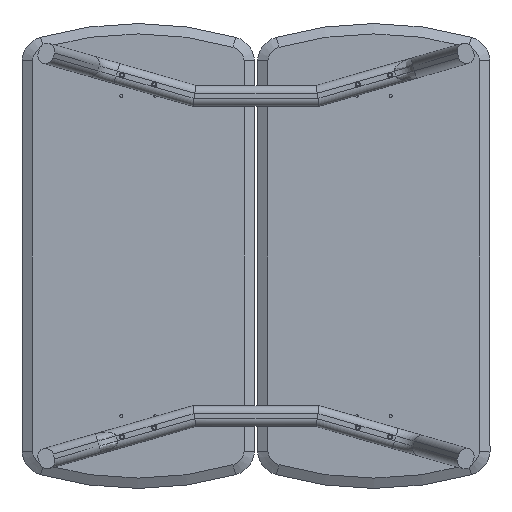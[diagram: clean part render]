
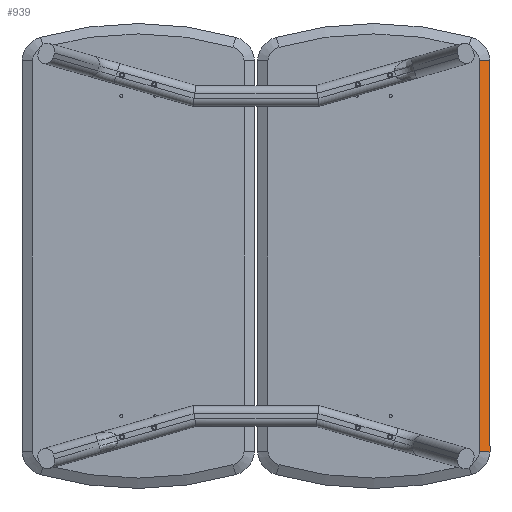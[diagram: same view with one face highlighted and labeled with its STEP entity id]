
A CAD part, front view. The second image highlights one B-rep face of the part: STEP entity #939.
In plain terms, the highlighted planar face has unit normal (0.5, -0.866, 0) as drawn and (0, -0.866, -0.5) by its records, which use the part's own axes.
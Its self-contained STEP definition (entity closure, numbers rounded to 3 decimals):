
#8 = CARTESIAN_POINT ( 'NONE',  ( -378.879, -7.303, -218.332 ) ) ;
#307 = CARTESIAN_POINT ( 'NONE',  ( -379.133, -3.453, -225. ) ) ;
#479 = CARTESIAN_POINT ( 'NONE',  ( 378.277, -15., -205. ) ) ;
#488 = CARTESIAN_POINT ( 'NONE',  ( 378.277, -15., -205. ) ) ;
#744 = LINE ( 'NONE', #5285, #3273 ) ;
#785 = B_SPLINE_CURVE_WITH_KNOTS ( 'NONE', 3,
 ( #479, #5383, #2289, #5420 ),
 .UNSPECIFIED., .F., .F.,
 ( 4, 4 ),
 ( 0., 0.023 ),
 .UNSPECIFIED. ) ;
#882 = VECTOR ( 'NONE', #2936, 1000. ) ;
#939 = ADVANCED_FACE ( 'NONE', ( #1992 ), #2179, .T. ) ;
#975 = VERTEX_POINT ( 'NONE', #4490 ) ;
#1161 = AXIS2_PLACEMENT_3D ( 'NONE', #5762, #2198, #3134 ) ;
#1225 = ORIENTED_EDGE ( 'NONE', *, *, #1816, .T. ) ;
#1573 = CARTESIAN_POINT ( 'NONE',  ( -378.603, -11.152, -211.665 ) ) ;
#1630 = LINE ( 'NONE', #307, #882 ) ;
#1657 = EDGE_CURVE ( 'NONE', #2895, #1866, #744, .T. ) ;
#1804 = EDGE_CURVE ( 'NONE', #2682, #975, #1630, .T. ) ;
#1816 = EDGE_CURVE ( 'NONE', #2895, #975, #5686, .T. ) ;
#1866 = VERTEX_POINT ( 'NONE', #488 ) ;
#1992 = FACE_OUTER_BOUND ( 'NONE', #2219, .T. ) ;
#2155 = ORIENTED_EDGE ( 'NONE', *, *, #1657, .F. ) ;
#2179 = PLANE ( 'NONE',  #1161 ) ;
#2198 = DIRECTION ( 'NONE',  ( 0., -0.866, -0.5 ) ) ;
#2219 = EDGE_LOOP ( 'NONE', ( #1225, #3768, #5392, #2155 ) ) ;
#2289 = CARTESIAN_POINT ( 'NONE',  ( 378.879, -7.303, -218.332 ) ) ;
#2682 = VERTEX_POINT ( 'NONE', #4622 ) ;
#2895 = VERTEX_POINT ( 'NONE', #3480 ) ;
#2936 = DIRECTION ( 'NONE',  ( -1., 0., 0. ) ) ;
#3134 = DIRECTION ( 'NONE',  ( 1., 0., 0. ) ) ;
#3230 = CARTESIAN_POINT ( 'NONE',  ( -379.133, -3.453, -225. ) ) ;
#3273 = VECTOR ( 'NONE', #3984, 1000. ) ;
#3480 = CARTESIAN_POINT ( 'NONE',  ( -378.277, -15., -205. ) ) ;
#3768 = ORIENTED_EDGE ( 'NONE', *, *, #1804, .F. ) ;
#3984 = DIRECTION ( 'NONE',  ( 1., 0., 0. ) ) ;
#4490 = CARTESIAN_POINT ( 'NONE',  ( -379.133, -3.453, -225. ) ) ;
#4622 = CARTESIAN_POINT ( 'NONE',  ( 379.133, -3.453, -225. ) ) ;
#5052 = CARTESIAN_POINT ( 'NONE',  ( -378.277, -15., -205. ) ) ;
#5285 = CARTESIAN_POINT ( 'NONE',  ( 379.133, -15., -205. ) ) ;
#5383 = CARTESIAN_POINT ( 'NONE',  ( 378.603, -11.152, -211.665 ) ) ;
#5392 = ORIENTED_EDGE ( 'NONE', *, *, #5511, .F. ) ;
#5420 = CARTESIAN_POINT ( 'NONE',  ( 379.133, -3.453, -225. ) ) ;
#5511 = EDGE_CURVE ( 'NONE', #1866, #2682, #785, .T. ) ;
#5686 = B_SPLINE_CURVE_WITH_KNOTS ( 'NONE', 3,
 ( #5052, #1573, #8, #3230 ),
 .UNSPECIFIED., .F., .F.,
 ( 4, 4 ),
 ( 0., 0.023 ),
 .UNSPECIFIED. ) ;
#5762 = CARTESIAN_POINT ( 'NONE',  ( 379.133, -3.453, -225. ) ) ;
